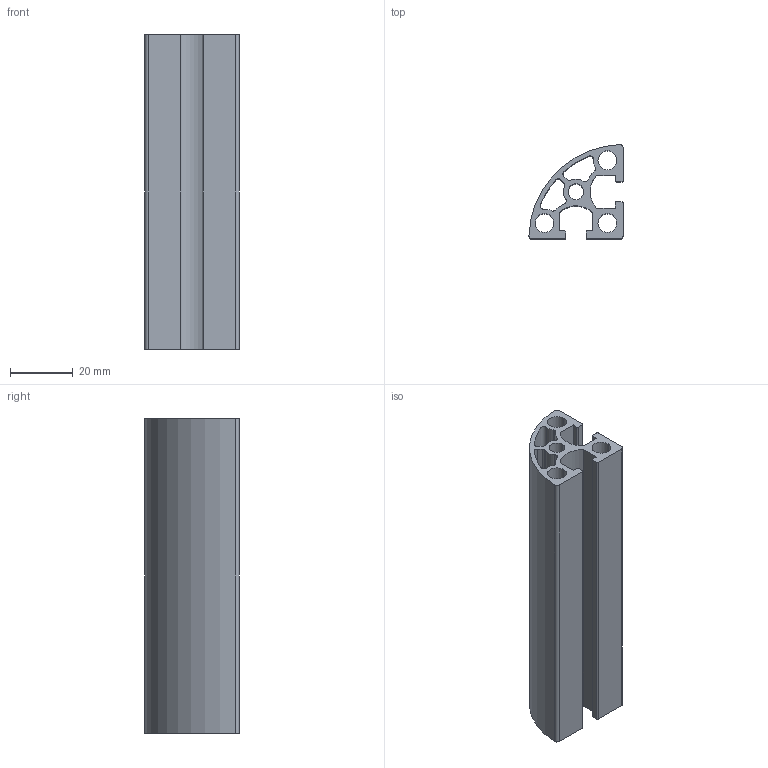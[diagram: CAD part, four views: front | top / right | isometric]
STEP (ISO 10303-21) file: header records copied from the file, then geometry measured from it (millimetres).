
FILE_DESCRIPTION (( 'STEP AP203' ), '1' );
FILE_NAME ('WSR3030-6.STEP', '2024-02-17T06:35:35', ( '' ), ( '' ), 'SwSTEP 2.0', 'SolidWorks 2022', '' );
FILE_SCHEMA (( 'CONFIG_CONTROL_DESIGN' ));
Length unit declared in the file: millimetre
Products named in the file (1): WSR3030-6
Bounding box: 29.98 x 29.98 x 100 mm (x, y, z)
Volume: 30956.2 mm3; surface area: 29360 mm2
Topology: 1 solids, 1 shells, 64 faces, 186 edges, 124 vertices
Faces by surface type: cylinder 44, plane 20
Entity records: 2259 total; most frequent: DIRECTION 404, CARTESIAN_POINT 375, ORIENTED_EDGE 372, EDGE_CURVE 186, AXIS2_PLACEMENT_3D 153, VERTEX_POINT 124, LINE 98, VECTOR 98
